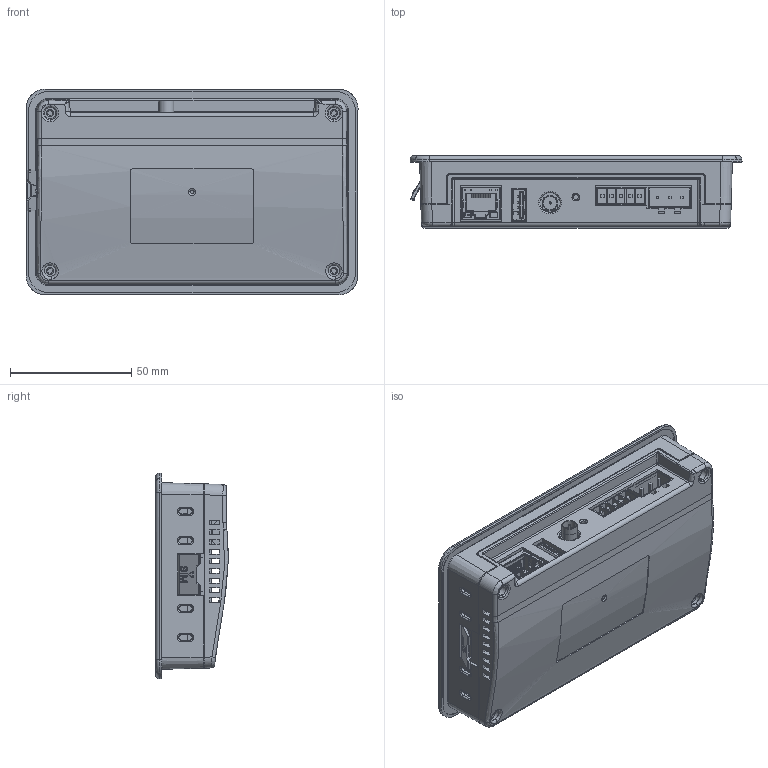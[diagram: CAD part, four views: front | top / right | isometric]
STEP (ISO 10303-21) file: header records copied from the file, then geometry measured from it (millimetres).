
FILE_DESCRIPTION (( 'STEP AP203' ), '1' );
FILE_NAME ('HMI-D4炵蹈籵蚚3D.STEP', '2024-03-19T09:35:23', ( 'h''w''s''j''s' ), ( '' ), 'SwSTEP 2.0', 'SolidWorks 2020', '' );
FILE_SCHEMA (( 'CONFIG_CONTROL_DESIGN' ));
Length unit declared in the file: millimetre
Products named in the file (1): HMI-D4炵蹈籵蚚3D
Bounding box: 137 x 29.95 x 85 mm (x, y, z)
Volume: 224493.5 mm3; surface area: 76108.3 mm2
Topology: 1 solids, 14 shells, 2266 faces, 6381 edges, 4092 vertices
Faces by surface type: plane 1530, cylinder 513, bspline 111, torus 71, cone 31, sphere 10
Entity records: 81996 total; most frequent: CARTESIAN_POINT 24411, ORIENTED_EDGE 12706, DIRECTION 10941, EDGE_CURVE 6353, VECTOR 4681, LINE 4681, VERTEX_POINT 4088, AXIS2_PLACEMENT_3D 3130
